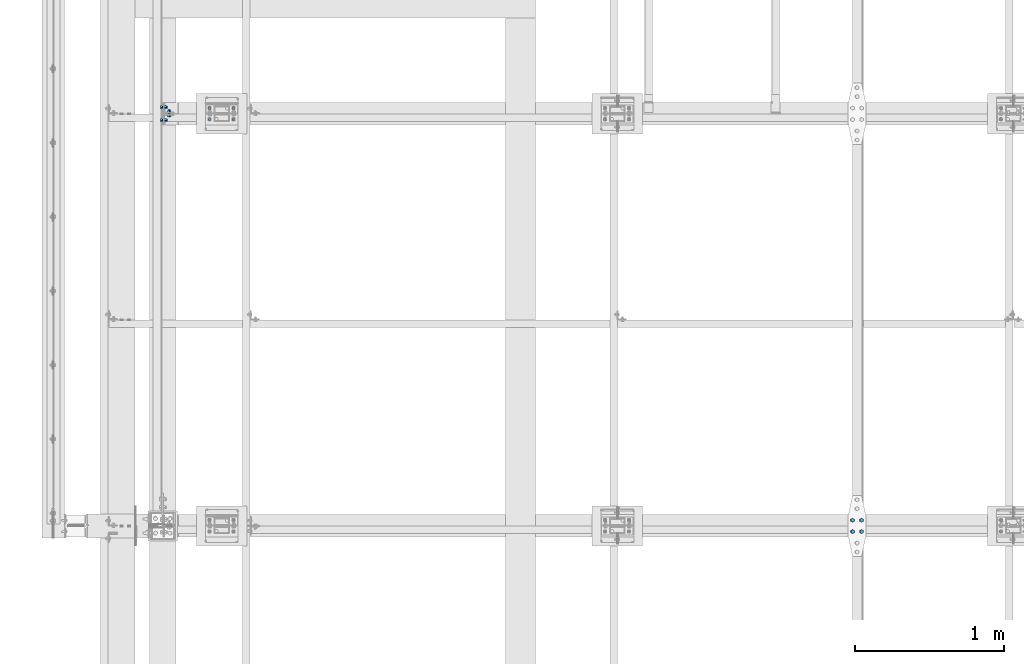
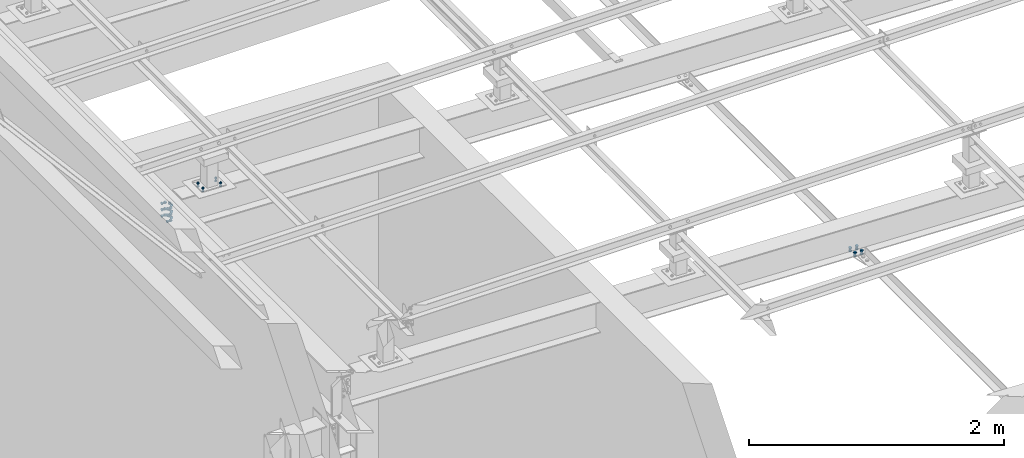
# One storey, part 185 of 3134: 5 mechanical fasteners, 4 elements without a shape of their own.
"""IFC2X3 building model written with IfcOpenShell, lengths in millimetres."""

from ifc_helpers import new_model, si_unit, frame, origin_with_axes, place, context, subcontext, project, spatial, faceted_brep, source, transform, mapped, material, type_object, element, aggregate, save


model = new_model("IFC2X3")

# Units and contexts
model_context = context("Model", 3, precision=1e-05, world=origin_with_axes())
body_context = subcontext(model_context, "Body", "Model", "MODEL_VIEW")
ifc_project = project(units=[si_unit("LENGTHUNIT", "METRE", prefix="MILLI"), si_unit("AREAUNIT", "SQUARE_METRE"), si_unit("VOLUMEUNIT", "CUBIC_METRE"), si_unit("MASSUNIT", "GRAM", prefix="KILO"), si_unit("TIMEUNIT", "SECOND"), si_unit("PLANEANGLEUNIT", "RADIAN"), si_unit("SOLIDANGLEUNIT", "STERADIAN"), si_unit("THERMODYNAMICTEMPERATUREUNIT", "DEGREE_CELSIUS"), si_unit("LUMINOUSINTENSITYUNIT", "LUMEN")], contexts=[model_context])

# Site, building, storey
site_placement = place(None, origin_with_axes())
site = spatial("IfcSite", under=ifc_project, at=site_placement, CompositionType="ELEMENT")
building_placement = place(site_placement, origin_with_axes())
building = spatial("IfcBuilding", under=site, at=building_placement, Name="Undefined", CompositionType="ELEMENT")
storey_placement = place(building_placement, origin_with_axes())
storey = spatial("IfcBuildingStorey", under=building, at=storey_placement, Name="Undefined", CompositionType="ELEMENT", Elevation=0.0)

# Assembly, mechanical fastener
assembly_1_placement = place(storey_placement, origin_with_axes())
assembly_1 = element("IfcElementAssembly", 1, at=assembly_1_placement, inside=storey, AssemblyPlace="NOTDEFINED", PredefinedType="RIGID_FRAME")
ifc_material = material(Name="8.8")
mechanical_fastener_type = type_object("IfcMechanicalFastenerType", Name="Bolt assembly")
shared_shape_1 = source(origin_with_axes(), body_context, "Body", "Brep", [
    faceted_brep([(13.856406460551, -18.5936482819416, 0.0), (6.92820323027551, -18.5936482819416, 12.0), (-6.92820323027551, -18.5936482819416, 12.0), (-13.856406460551, -18.5936482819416, 1.69692038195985e-15), (-6.92820323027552, -18.5936482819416, -12.0), (6.9282032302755, -18.5936482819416, -12.0), (6.9282032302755, -8.59364828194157, -12.0), (-6.92820323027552, -8.59364828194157, -12.0), (-13.856406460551, -8.59364828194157, 1.69692038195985e-15), (-6.92820323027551, -8.59364828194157, 12.0), (6.92820323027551, -8.59364828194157, 12.0), (13.856406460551, -8.59364828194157, 0.0), (8.0, -8.59364828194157, 0.0), (6.92820323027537, -8.59364828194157, 4.00000000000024), (3.99999999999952, -8.59364828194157, 6.92820323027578), (-8.29068785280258e-13, -8.59364828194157, 8.0), (-4.00000000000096, -8.59364828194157, 6.92820323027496), (-6.9282032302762, -8.59364828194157, 3.99999999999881), (-8.0, -8.59364828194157, -1.65813757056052e-12), (-6.92820323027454, -8.59364828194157, -4.00000000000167), (-3.99999999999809, -8.59364828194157, -6.92820323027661), (2.47832457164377e-12, -8.59364828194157, -8.0), (4.00000000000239, -8.59364828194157, -6.92820323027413), (6.92820323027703, -8.59364828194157, -3.99999999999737), (6.92820323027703, 26.4063517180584, -3.99999999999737), (4.00000000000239, 26.4063517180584, -6.92820323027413), (2.47832457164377e-12, 26.4063517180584, -8.0), (-3.99999999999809, 26.4063517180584, -6.92820323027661), (-6.92820323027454, 26.4063517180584, -4.00000000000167), (-8.0, 26.4063517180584, -1.65813757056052e-12), (-6.9282032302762, 26.4063517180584, 3.99999999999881), (-4.00000000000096, 26.4063517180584, 6.92820323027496), (-8.29068785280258e-13, 26.4063517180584, 8.0), (3.99999999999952, 26.4063517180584, 6.92820323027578), (6.92820323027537, 26.4063517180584, 4.00000000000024), (8.0, 26.4063517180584, 0.0), (13.856406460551, 7.0, 0.0), (6.92820323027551, 7.0, 12.0), (-6.92820323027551, 7.0, 12.0), (-13.856406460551, 7.0, 1.69692038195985e-15), (-6.92820323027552, 7.0, -12.0), (6.9282032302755, 7.0, -12.0), (6.9282032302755, 20.0, -12.0), (-6.92820323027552, 20.0, -12.0), (-13.856406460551, 20.0, 1.69692038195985e-15), (-6.92820323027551, 20.0, 12.0), (6.92820323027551, 20.0, 12.0), (13.856406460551, 20.0, 0.0)], [[[0, 1, 2, 3, 4, 5]], [[6, 7, 8, 9, 10, 11]], [[0, 11, 10, 1]], [[1, 10, 9, 2]], [[2, 9, 8, 3]], [[3, 8, 7, 4]], [[4, 7, 6, 5]], [[5, 6, 11, 0]], [[12, 13, 14, 15, 16, 17, 18, 19, 20, 21, 22, 23]], [[24, 25, 26, 27, 28, 29, 30, 31, 32, 33, 34, 35]], [[12, 35, 34, 13]], [[13, 34, 33, 14]], [[14, 33, 32, 15]], [[15, 32, 31, 16]], [[16, 31, 30, 17]], [[17, 30, 29, 18]], [[18, 29, 28, 19]], [[19, 28, 27, 20]], [[20, 27, 26, 21]], [[21, 26, 25, 22]], [[22, 25, 24, 23]], [[23, 24, 35, 12]], [[36, 37, 38, 39, 40, 41]], [[42, 43, 44, 45, 46, 47]], [[36, 47, 46, 37]], [[37, 46, 45, 38]], [[38, 45, 44, 39]], [[39, 44, 43, 40]], [[40, 43, 42, 41]], [[41, 42, 47, 36]]]),
    faceted_brep([(9.0, -8.49364828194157, 0.0), (7.79422863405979, -8.49364828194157, 4.50000000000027), (4.49999999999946, -8.49364828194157, 7.79422863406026), (-9.3270238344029e-13, -8.49364828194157, 9.0), (-4.50000000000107, -8.49364828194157, 7.79422863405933), (-7.79422863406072, -8.49364828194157, 4.49999999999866), (-9.0, -8.49364828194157, -1.86540476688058e-12), (-7.79422863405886, -8.49364828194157, -4.50000000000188), (-4.49999999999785, -8.49364828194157, -7.79422863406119), (2.78811514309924e-12, -8.49364828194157, -9.0), (4.50000000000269, -8.49364828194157, -7.7942286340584), (7.79422863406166, -8.49364828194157, -4.49999999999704), (7.79422863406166, 0.10635209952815, -4.49999999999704), (4.50000000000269, 0.10635209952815, -7.7942286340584), (2.78811514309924e-12, 0.10635209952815, -9.0), (-4.49999999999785, 0.10635209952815, -7.79422863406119), (-7.79422863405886, 0.10635209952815, -4.50000000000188), (-9.0, 0.10635209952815, -1.86540476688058e-12), (-7.79422863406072, 0.10635209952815, 4.49999999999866), (-4.50000000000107, 0.10635209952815, 7.79422863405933), (-9.3270238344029e-13, 0.10635209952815, 9.0), (4.49999999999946, 0.10635209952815, 7.79422863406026), (7.79422863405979, 0.10635209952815, 4.50000000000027), (9.0, 0.10635209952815, 0.0), (9.0, -0.1, 0.0), (7.79422863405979, -0.1, 4.50000000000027), (4.49999999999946, -0.1, 7.79422863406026), (-9.3270238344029e-13, -0.1, 9.0), (-4.50000000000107, -0.1, 7.79422863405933), (-7.79422863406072, -0.1, 4.49999999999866), (-9.0, -0.1, -1.86540476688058e-12), (-7.79422863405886, -0.1, -4.50000000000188), (-4.49999999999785, -0.1, -7.79422863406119), (2.78811514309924e-12, -0.1, -9.0), (4.50000000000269, -0.1, -7.7942286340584), (7.79422863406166, -0.1, -4.49999999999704), (7.79422863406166, 7.0, -4.49999999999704), (4.50000000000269, 7.0, -7.7942286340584), (2.78811514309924e-12, 7.0, -9.0), (-4.49999999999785, 7.0, -7.79422863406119), (-7.79422863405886, 7.0, -4.50000000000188), (-9.0, 7.0, -1.86540476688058e-12), (-7.79422863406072, 7.0, 4.49999999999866), (-4.50000000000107, 7.0, 7.79422863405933), (-9.3270238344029e-13, 7.0, 9.0), (4.49999999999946, 7.0, 7.79422863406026), (7.79422863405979, 7.0, 4.50000000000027), (9.0, 7.0, 0.0)], [[[0, 1, 2, 3, 4, 5, 6, 7, 8, 9, 10, 11]], [[12, 13, 14, 15, 16, 17, 18, 19, 20, 21, 22, 23]], [[0, 23, 22, 1]], [[1, 22, 21, 2]], [[2, 21, 20, 3]], [[3, 20, 19, 4]], [[4, 19, 18, 5]], [[5, 18, 17, 6]], [[6, 17, 16, 7]], [[7, 16, 15, 8]], [[8, 15, 14, 9]], [[9, 14, 13, 10]], [[10, 13, 12, 11]], [[11, 12, 23, 0]], [[24, 25, 26, 27, 28, 29, 30, 31, 32, 33, 34, 35]], [[36, 37, 38, 39, 40, 41, 42, 43, 44, 45, 46, 47]], [[24, 47, 46, 25]], [[25, 46, 45, 26]], [[26, 45, 44, 27]], [[27, 44, 43, 28]], [[28, 43, 42, 29]], [[29, 42, 41, 30]], [[30, 41, 40, 31]], [[31, 40, 39, 32]], [[32, 39, 38, 33]], [[33, 38, 37, 34]], [[34, 37, 36, 35]], [[35, 36, 47, 24]]]),
])
mechanical_fastener_1_placement = place(assembly_1_placement, frame((4.29364809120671, 43051.37, 3841.86727512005), z_axis=(0.0, 1.0, 0.0), x_axis=(0.0, 0.0, 1.0)))
mechanical_fastener_1 = element("IfcMechanicalFastener", 2, at=mechanical_fastener_1_placement, type_object=mechanical_fastener_type, material=ifc_material, Name="Bolt assembly", NominalDiameter=16.0, NominalLength=35.0, context=body_context, shape_type="MappedRepresentation", body=[
    mapped(shared_shape_1, transform((0.0, 0.0, 0.0))),
    mapped(shared_shape_1, transform((59.9999999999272, 0.0, 5.40239852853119e-10))),
    mapped(shared_shape_1, transform((120.0, 0.0, 0.0))),
])
aggregate(assembly_1, [mechanical_fastener_1])

assembly_2_placement = place(storey_placement, origin_with_axes())
assembly_2 = element("IfcElementAssembly", 3, at=assembly_2_placement, inside=storey, AssemblyPlace="NOTDEFINED", PredefinedType="RIGID_FRAME")
mechanical_fastener_2_placement = place(assembly_2_placement, frame((4.29364809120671, 42965.29, 3841.86727512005), z_axis=(0.0, 1.0, 0.0), x_axis=(0.0, 0.0, 1.0)))
mechanical_fastener_2 = element("IfcMechanicalFastener", 4, at=mechanical_fastener_2_placement, type_object=mechanical_fastener_type, material=ifc_material, Name="Bolt assembly", NominalDiameter=16.0, NominalLength=35.0, context=body_context, shape_type="MappedRepresentation", body=[
    mapped(shared_shape_1, transform((0.0, 0.0, 0.0))),
    mapped(shared_shape_1, transform((59.9999999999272, 0.0, 5.40239852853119e-10))),
    mapped(shared_shape_1, transform((120.0, 0.0, 0.0))),
])

assembly_3_placement = place(storey_placement, origin_with_axes())
assembly_3 = element("IfcElementAssembly", 5, at=assembly_3_placement, inside=storey, Name="PL8", AssemblyPlace="NOTDEFINED", PredefinedType="RIGID_FRAME")
shared_shape_2 = source(origin_with_axes(), body_context, "Body", "Brep", [
    faceted_brep([(13.856406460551, -23.2000817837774, 0.0), (6.92820323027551, -23.2000817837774, 12.0), (-6.92820323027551, -23.2000817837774, 12.0), (-13.856406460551, -23.2000817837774, 1.69692038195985e-15), (-6.92820323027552, -23.2000817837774, -12.0), (6.9282032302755, -23.2000817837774, -12.0), (6.9282032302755, -13.2000817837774, -12.0), (-6.92820323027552, -13.2000817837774, -12.0), (-13.856406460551, -13.2000817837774, 1.69692038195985e-15), (-6.92820323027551, -13.2000817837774, 12.0), (6.92820323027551, -13.2000817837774, 12.0), (13.856406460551, -13.2000817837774, 0.0), (8.0, -13.2000817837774, 0.0), (6.92820323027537, -13.2000817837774, 4.00000000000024), (3.99999999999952, -13.2000817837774, 6.92820323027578), (-8.29068785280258e-13, -13.2000817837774, 8.0), (-4.00000000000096, -13.2000817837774, 6.92820323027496), (-6.9282032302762, -13.2000817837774, 3.99999999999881), (-8.0, -13.2000817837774, -1.65813757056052e-12), (-6.92820323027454, -13.2000817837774, -4.00000000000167), (-3.99999999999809, -13.2000817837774, -6.92820323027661), (2.47832457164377e-12, -13.2000817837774, -8.0), (4.00000000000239, -13.2000817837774, -6.92820323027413), (6.92820323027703, -13.2000817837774, -3.99999999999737), (6.92820323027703, 21.7999182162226, -3.99999999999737), (4.00000000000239, 21.7999182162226, -6.92820323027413), (2.47832457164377e-12, 21.7999182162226, -8.0), (-3.99999999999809, 21.7999182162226, -6.92820323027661), (-6.92820323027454, 21.7999182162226, -4.00000000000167), (-8.0, 21.7999182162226, -1.65813757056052e-12), (-6.9282032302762, 21.7999182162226, 3.99999999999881), (-4.00000000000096, 21.7999182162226, 6.92820323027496), (-8.29068785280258e-13, 21.7999182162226, 8.0), (3.99999999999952, 21.7999182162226, 6.92820323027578), (6.92820323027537, 21.7999182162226, 4.00000000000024), (8.0, 21.7999182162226, 0.0), (13.856406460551, 3.99999999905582, 0.0), (6.92820323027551, 3.99999999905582, 12.0), (-6.92820323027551, 3.99999999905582, 12.0), (-13.856406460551, 3.99999999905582, 1.69692038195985e-15), (-6.92820323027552, 3.99999999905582, -12.0), (6.9282032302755, 3.99999999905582, -12.0), (6.9282032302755, 16.9999999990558, -12.0), (-6.92820323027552, 16.9999999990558, -12.0), (-13.856406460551, 16.9999999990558, 1.69692038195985e-15), (-6.92820323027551, 16.9999999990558, 12.0), (6.92820323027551, 16.9999999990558, 12.0), (13.856406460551, 16.9999999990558, 0.0)], [[[0, 1, 2, 3, 4, 5]], [[6, 7, 8, 9, 10, 11]], [[0, 11, 10, 1]], [[1, 10, 9, 2]], [[2, 9, 8, 3]], [[3, 8, 7, 4]], [[4, 7, 6, 5]], [[5, 6, 11, 0]], [[12, 13, 14, 15, 16, 17, 18, 19, 20, 21, 22, 23]], [[24, 25, 26, 27, 28, 29, 30, 31, 32, 33, 34, 35]], [[12, 35, 34, 13]], [[13, 34, 33, 14]], [[14, 33, 32, 15]], [[15, 32, 31, 16]], [[16, 31, 30, 17]], [[17, 30, 29, 18]], [[18, 29, 28, 19]], [[19, 28, 27, 20]], [[20, 27, 26, 21]], [[21, 26, 25, 22]], [[22, 25, 24, 23]], [[23, 24, 35, 12]], [[36, 37, 38, 39, 40, 41]], [[42, 43, 44, 45, 46, 47]], [[36, 47, 46, 37]], [[37, 46, 45, 38]], [[38, 45, 44, 39]], [[39, 44, 43, 40]], [[40, 43, 42, 41]], [[41, 42, 47, 36]]]),
    faceted_brep([(9.0, -13.1000817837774, 0.0), (7.79422863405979, -13.1000817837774, 4.50000000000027), (4.49999999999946, -13.1000817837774, 7.79422863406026), (-9.3270238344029e-13, -13.1000817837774, 9.0), (-4.50000000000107, -13.1000817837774, 7.79422863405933), (-7.79422863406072, -13.1000817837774, 4.49999999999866), (-9.0, -13.1000817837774, -1.86540476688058e-12), (-7.79422863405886, -13.1000817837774, -4.50000000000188), (-4.49999999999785, -13.1000817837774, -7.79422863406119), (2.78811514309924e-12, -13.1000817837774, -9.0), (4.50000000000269, -13.1000817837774, -7.7942286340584), (7.79422863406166, -13.1000817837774, -4.49999999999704), (7.79422863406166, -3.90008197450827, -4.49999999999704), (4.50000000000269, -3.90008197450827, -7.7942286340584), (2.78811514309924e-12, -3.90008197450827, -9.0), (-4.49999999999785, -3.90008197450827, -7.79422863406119), (-7.79422863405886, -3.90008197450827, -4.50000000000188), (-9.0, -3.90008197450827, -1.86540476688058e-12), (-7.79422863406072, -3.90008197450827, 4.49999999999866), (-4.50000000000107, -3.90008197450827, 7.79422863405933), (-9.3270238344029e-13, -3.90008197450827, 9.0), (4.49999999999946, -3.90008197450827, 7.79422863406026), (7.79422863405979, -3.90008197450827, 4.50000000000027), (9.0, -3.90008197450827, 0.0), (9.0, -4.10000000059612, 0.0), (7.79422863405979, -4.10000000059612, 4.50000000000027), (4.49999999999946, -4.10000000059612, 7.79422863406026), (-9.3270238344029e-13, -4.10000000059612, 9.0), (-4.50000000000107, -4.10000000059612, 7.79422863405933), (-7.79422863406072, -4.10000000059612, 4.49999999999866), (-9.0, -4.10000000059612, -1.86540476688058e-12), (-7.79422863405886, -4.10000000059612, -4.50000000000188), (-4.49999999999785, -4.10000000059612, -7.79422863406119), (2.78811514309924e-12, -4.10000000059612, -9.0), (4.50000000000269, -4.10000000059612, -7.7942286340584), (7.79422863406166, -4.10000000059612, -4.49999999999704), (7.79422863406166, 4.00000375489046, -4.49999999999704), (4.50000000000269, 4.00000375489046, -7.7942286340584), (2.78811514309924e-12, 4.00000375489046, -9.0), (-4.49999999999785, 4.00000375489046, -7.79422863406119), (-7.79422863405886, 4.00000375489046, -4.50000000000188), (-9.0, 4.00000375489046, -1.86540476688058e-12), (-7.79422863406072, 4.00000375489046, 4.49999999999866), (-4.50000000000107, 4.00000375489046, 7.79422863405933), (-9.3270238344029e-13, 4.00000375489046, 9.0), (4.49999999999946, 4.00000375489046, 7.79422863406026), (7.79422863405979, 4.00000375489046, 4.50000000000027), (9.0, 4.00000375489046, 0.0)], [[[0, 1, 2, 3, 4, 5, 6, 7, 8, 9, 10, 11]], [[12, 13, 14, 15, 16, 17, 18, 19, 20, 21, 22, 23]], [[0, 23, 22, 1]], [[1, 22, 21, 2]], [[2, 21, 20, 3]], [[3, 20, 19, 4]], [[4, 19, 18, 5]], [[5, 18, 17, 6]], [[6, 17, 16, 7]], [[7, 16, 15, 8]], [[8, 15, 14, 9]], [[9, 14, 13, 10]], [[10, 13, 12, 11]], [[11, 12, 23, 0]], [[24, 25, 26, 27, 28, 29, 30, 31, 32, 33, 34, 35]], [[36, 37, 38, 39, 40, 41, 42, 43, 44, 45, 46, 47]], [[24, 47, 46, 25]], [[25, 46, 45, 26]], [[26, 45, 44, 27]], [[27, 44, 43, 28]], [[28, 43, 42, 29]], [[29, 42, 41, 30]], [[30, 41, 40, 31]], [[31, 40, 39, 32]], [[32, 39, 38, 33]], [[33, 38, 37, 34]], [[34, 37, 36, 35]], [[35, 36, 47, 24]]]),
])
mechanical_fastener_3_placement = place(assembly_3_placement, frame((4647.50483519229, 40212.0, 3576.15051900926), z_axis=(-0.999388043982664, 0.0, 0.0349791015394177), x_axis=(0.0, 1.0, 0.0)))
mechanical_fastener_3 = element("IfcMechanicalFastener", 6, at=mechanical_fastener_3_placement, type_object=mechanical_fastener_type, material=ifc_material, Name="Bolt assembly", NominalDiameter=16.0, NominalLength=35.0, context=body_context, shape_type="MappedRepresentation", body=[
    mapped(shared_shape_2, transform((0.0, 4.54747350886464e-13, -30.0000000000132))),
    mapped(shared_shape_2, transform((76.0, -2.00088834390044e-10, -29.9999999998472))),
    mapped(shared_shape_2, transform((0.0, 4.54747350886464e-13, 30.0000000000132))),
    mapped(shared_shape_2, transform((76.0, 1.98269844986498e-10, 29.9999999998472))),
])
aggregate(assembly_3, [mechanical_fastener_3])

# Mechanical fastener
shared_shape_3 = source(origin_with_axes(), body_context, "Body", "Brep", [
    faceted_brep([(13.856406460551, -20.0400000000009, 0.0), (6.92820323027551, -20.0400000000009, 12.0), (-6.92820323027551, -20.0400000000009, 12.0), (-13.856406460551, -20.0400000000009, 1.69692038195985e-15), (-6.92820323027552, -20.0400000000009, -12.0), (6.9282032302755, -20.0400000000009, -12.0), (6.9282032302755, -10.0400000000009, -12.0), (-6.92820323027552, -10.0400000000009, -12.0), (-13.856406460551, -10.0400000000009, 1.69692038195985e-15), (-6.92820323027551, -10.0400000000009, 12.0), (6.92820323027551, -10.0400000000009, 12.0), (13.856406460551, -10.0400000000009, 0.0), (8.0, -10.0400000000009, 0.0), (6.92820323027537, -10.0400000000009, 4.00000000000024), (3.99999999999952, -10.0400000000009, 6.92820323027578), (-8.29068785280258e-13, -10.0400000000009, 8.0), (-4.00000000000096, -10.0400000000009, 6.92820323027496), (-6.9282032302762, -10.0400000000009, 3.99999999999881), (-8.0, -10.0400000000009, -1.65813757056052e-12), (-6.92820323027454, -10.0400000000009, -4.00000000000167), (-3.99999999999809, -10.0400000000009, -6.92820323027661), (2.47832457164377e-12, -10.0400000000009, -8.0), (4.00000000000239, -10.0400000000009, -6.92820323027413), (6.92820323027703, -10.0400000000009, -3.99999999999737), (6.92820323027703, 29.9599999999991, -3.99999999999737), (4.00000000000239, 29.9599999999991, -6.92820323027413), (2.47832457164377e-12, 29.9599999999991, -8.0), (-3.99999999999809, 29.9599999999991, -6.92820323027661), (-6.92820323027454, 29.9599999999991, -4.00000000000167), (-8.0, 29.9599999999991, -1.65813757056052e-12), (-6.9282032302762, 29.9599999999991, 3.99999999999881), (-4.00000000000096, 29.9599999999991, 6.92820323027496), (-8.29068785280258e-13, 29.9599999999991, 8.0), (3.99999999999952, 29.9599999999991, 6.92820323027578), (6.92820323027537, 29.9599999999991, 4.00000000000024), (8.0, 29.9599999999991, 0.0), (13.856406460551, 10.0400000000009, 0.0), (6.92820323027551, 10.0400000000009, 12.0), (-6.92820323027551, 10.0400000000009, 12.0), (-13.856406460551, 10.0400000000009, 1.69692038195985e-15), (-6.92820323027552, 10.0400000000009, -12.0), (6.9282032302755, 10.0400000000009, -12.0), (6.9282032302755, 23.0400000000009, -12.0), (-6.92820323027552, 23.0400000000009, -12.0), (-13.856406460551, 23.0400000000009, 1.69692038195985e-15), (-6.92820323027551, 23.0400000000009, 12.0), (6.92820323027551, 23.0400000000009, 12.0), (13.856406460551, 23.0400000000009, 0.0)], [[[0, 1, 2, 3, 4, 5]], [[6, 7, 8, 9, 10, 11]], [[0, 11, 10, 1]], [[1, 10, 9, 2]], [[2, 9, 8, 3]], [[3, 8, 7, 4]], [[4, 7, 6, 5]], [[5, 6, 11, 0]], [[12, 13, 14, 15, 16, 17, 18, 19, 20, 21, 22, 23]], [[24, 25, 26, 27, 28, 29, 30, 31, 32, 33, 34, 35]], [[12, 35, 34, 13]], [[13, 34, 33, 14]], [[14, 33, 32, 15]], [[15, 32, 31, 16]], [[16, 31, 30, 17]], [[17, 30, 29, 18]], [[18, 29, 28, 19]], [[19, 28, 27, 20]], [[20, 27, 26, 21]], [[21, 26, 25, 22]], [[22, 25, 24, 23]], [[23, 24, 35, 12]], [[36, 37, 38, 39, 40, 41]], [[42, 43, 44, 45, 46, 47]], [[36, 47, 46, 37]], [[37, 46, 45, 38]], [[38, 45, 44, 39]], [[39, 44, 43, 40]], [[40, 43, 42, 41]], [[41, 42, 47, 36]]]),
    faceted_brep([(9.0, -3.04999995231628, 0.0), (7.79422863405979, -3.04999995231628, 4.50000000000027), (4.49999999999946, -3.04999995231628, 7.79422863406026), (-9.3270238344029e-13, -3.04999995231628, 9.0), (-4.50000000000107, -3.04999995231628, 7.79422863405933), (-7.79422863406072, -3.04999995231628, 4.49999999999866), (-9.0, -3.04999995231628, -1.86540476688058e-12), (-7.79422863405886, -3.04999995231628, -4.50000000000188), (-4.49999999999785, -3.04999995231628, -7.79422863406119), (2.78811514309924e-12, -3.04999995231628, -9.0), (4.50000000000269, -3.04999995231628, -7.7942286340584), (7.79422863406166, -3.04999995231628, -4.49999999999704), (7.79422863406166, 3.04999995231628, -4.49999999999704), (4.50000000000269, 3.04999995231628, -7.7942286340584), (2.78811514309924e-12, 3.04999995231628, -9.0), (-4.49999999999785, 3.04999995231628, -7.79422863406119), (-7.79422863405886, 3.04999995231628, -4.50000000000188), (-9.0, 3.04999995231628, -1.86540476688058e-12), (-7.79422863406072, 3.04999995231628, 4.49999999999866), (-4.50000000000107, 3.04999995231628, 7.79422863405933), (-9.3270238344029e-13, 3.04999995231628, 9.0), (4.49999999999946, 3.04999995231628, 7.79422863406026), (7.79422863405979, 3.04999995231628, 4.50000000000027), (9.0, 3.04999995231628, 0.0), (9.0, -9.94000000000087, 0.0), (7.79422863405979, -9.94000000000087, 4.50000000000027), (4.49999999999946, -9.94000000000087, 7.79422863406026), (-9.3270238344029e-13, -9.94000000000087, 9.0), (-4.50000000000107, -9.94000000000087, 7.79422863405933), (-7.79422863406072, -9.94000000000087, 4.49999999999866), (-9.0, -9.94000000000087, -1.86540476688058e-12), (-7.79422863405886, -9.94000000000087, -4.50000000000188), (-4.49999999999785, -9.94000000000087, -7.79422863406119), (2.78811514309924e-12, -9.94000000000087, -9.0), (4.50000000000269, -9.94000000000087, -7.7942286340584), (7.79422863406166, -9.94000000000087, -4.49999999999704), (7.79422863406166, -2.94000000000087, -4.49999999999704), (4.50000000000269, -2.94000000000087, -7.7942286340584), (2.78811514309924e-12, -2.94000000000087, -9.0), (-4.49999999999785, -2.94000000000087, -7.79422863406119), (-7.79422863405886, -2.94000000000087, -4.50000000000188), (-9.0, -2.94000000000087, -1.86540476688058e-12), (-7.79422863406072, -2.94000000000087, 4.49999999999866), (-4.50000000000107, -2.94000000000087, 7.79422863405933), (-9.3270238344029e-13, -2.94000000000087, 9.0), (4.49999999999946, -2.94000000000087, 7.79422863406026), (7.79422863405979, -2.94000000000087, 4.50000000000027), (9.0, -2.94000000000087, 0.0), (9.0, 2.94000000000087, 0.0), (7.79422863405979, 2.94000000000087, 4.50000000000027), (4.49999999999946, 2.94000000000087, 7.79422863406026), (-9.3270238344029e-13, 2.94000000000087, 9.0), (-4.50000000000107, 2.94000000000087, 7.79422863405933), (-7.79422863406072, 2.94000000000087, 4.49999999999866), (-9.0, 2.94000000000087, -1.86540476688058e-12), (-7.79422863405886, 2.94000000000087, -4.50000000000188), (-4.49999999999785, 2.94000000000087, -7.79422863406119), (2.78811514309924e-12, 2.94000000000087, -9.0), (4.50000000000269, 2.94000000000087, -7.7942286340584), (7.79422863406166, 2.94000000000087, -4.49999999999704), (7.79422863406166, 10.0400000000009, -4.49999999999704), (4.50000000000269, 10.0400000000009, -7.7942286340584), (2.78811514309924e-12, 10.0400000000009, -9.0), (-4.49999999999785, 10.0400000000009, -7.79422863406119), (-7.79422863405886, 10.0400000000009, -4.50000000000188), (-9.0, 10.0400000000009, -1.86540476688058e-12), (-7.79422863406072, 10.0400000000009, 4.49999999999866), (-4.50000000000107, 10.0400000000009, 7.79422863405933), (-9.3270238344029e-13, 10.0400000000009, 9.0), (4.49999999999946, 10.0400000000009, 7.79422863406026), (7.79422863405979, 10.0400000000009, 4.50000000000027), (9.0, 10.0400000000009, 0.0)], [[[0, 1, 2, 3, 4, 5, 6, 7, 8, 9, 10, 11]], [[12, 13, 14, 15, 16, 17, 18, 19, 20, 21, 22, 23]], [[0, 23, 22, 1]], [[1, 22, 21, 2]], [[2, 21, 20, 3]], [[3, 20, 19, 4]], [[4, 19, 18, 5]], [[5, 18, 17, 6]], [[6, 17, 16, 7]], [[7, 16, 15, 8]], [[8, 15, 14, 9]], [[9, 14, 13, 10]], [[10, 13, 12, 11]], [[11, 12, 23, 0]], [[24, 25, 26, 27, 28, 29, 30, 31, 32, 33, 34, 35]], [[36, 37, 38, 39, 40, 41, 42, 43, 44, 45, 46, 47]], [[24, 47, 46, 25]], [[25, 46, 45, 26]], [[26, 45, 44, 27]], [[27, 44, 43, 28]], [[28, 43, 42, 29]], [[29, 42, 41, 30]], [[30, 41, 40, 31]], [[31, 40, 39, 32]], [[32, 39, 38, 33]], [[33, 38, 37, 34]], [[34, 37, 36, 35]], [[35, 36, 47, 24]], [[48, 49, 50, 51, 52, 53, 54, 55, 56, 57, 58, 59]], [[60, 61, 62, 63, 64, 65, 66, 67, 68, 69, 70, 71]], [[48, 71, 70, 49]], [[49, 70, 69, 50]], [[50, 69, 68, 51]], [[51, 68, 67, 52]], [[52, 67, 66, 53]], [[53, 66, 65, 54]], [[54, 65, 64, 55]], [[55, 64, 63, 56]], [[56, 63, 62, 57]], [[57, 62, 61, 58]], [[58, 61, 60, 59]], [[59, 60, 71, 48]]]),
])
mechanical_fastener_4_placement = place(assembly_2_placement, frame((44.2936480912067, 43008.33, 3841.86727512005), z_axis=(-1.0, 0.0, 0.0), x_axis=(0.0, 0.0, 1.0)))
mechanical_fastener_4 = element("IfcMechanicalFastener", 7, at=mechanical_fastener_4_placement, type_object=mechanical_fastener_type, material=ifc_material, Name="Bolt assembly", NominalDiameter=16.0, NominalLength=40.0, context=body_context, shape_type="MappedRepresentation", body=[
    mapped(shared_shape_3, transform((0.0, 0.0, 0.0))),
    mapped(shared_shape_3, transform((59.9999999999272, 0.0, 5.40239852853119e-10))),
    mapped(shared_shape_3, transform((120.0, 0.0, 0.0))),
])

aggregate(assembly_2, [mechanical_fastener_2, mechanical_fastener_4])

# Assembly, mechanical fastener
assembly_4_placement = place(storey_placement, origin_with_axes())
assembly_4 = element("IfcElementAssembly", 8, at=assembly_4_placement, inside=storey, AssemblyPlace="NOTDEFINED", PredefinedType="RIGID_FRAME")
shared_shape_4 = source(origin_with_axes(), body_context, "Body", "Brep", [
    faceted_brep([(10.9696551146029, -4.19432770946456, 0.0), (5.48482755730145, -4.19432770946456, 9.5), (-5.48482755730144, -4.19432770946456, 9.5), (-10.9696551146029, -4.19432770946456, 1.34339530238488e-15), (-5.48482755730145, -4.19432770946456, -9.5), (5.48482755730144, -4.19432770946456, -9.50000000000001), (5.48482755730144, 3.80567229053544, -9.50000000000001), (-5.48482755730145, 3.80567229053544, -9.5), (-10.9696551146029, 3.80567229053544, 1.34339530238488e-15), (-5.48482755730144, 3.80567229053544, 9.5), (5.48482755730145, 3.80567229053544, 9.5), (10.9696551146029, 3.80567229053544, 0.0), (6.0, 3.80567229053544, 0.0), (5.19615242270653, 3.80567229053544, 3.00000000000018), (2.99999999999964, 3.80567229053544, 5.19615242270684), (-6.21801588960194e-13, 3.80567229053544, 6.0), (-3.00000000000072, 3.80567229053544, 5.19615242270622), (-5.19615242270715, 3.80567229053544, 2.9999999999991), (-6.0, 3.80567229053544, -1.24360317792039e-12), (-5.19615242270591, 3.80567229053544, -3.00000000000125), (-2.99999999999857, 3.80567229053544, -5.19615242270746), (1.85874342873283e-12, 3.80567229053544, -6.0), (3.00000000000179, 3.80567229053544, -5.1961524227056), (5.19615242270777, 3.80567229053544, -2.99999999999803), (5.19615242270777, 38.8056722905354, -2.99999999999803), (3.00000000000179, 38.8056722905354, -5.1961524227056), (1.85874342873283e-12, 38.8056722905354, -6.0), (-2.99999999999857, 38.8056722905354, -5.19615242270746), (-5.19615242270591, 38.8056722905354, -3.00000000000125), (-6.0, 38.8056722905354, -1.24360317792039e-12), (-5.19615242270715, 38.8056722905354, 2.9999999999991), (-3.00000000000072, 38.8056722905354, 5.19615242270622), (-6.21801588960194e-13, 38.8056722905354, 6.0), (2.99999999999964, 38.8056722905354, 5.19615242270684), (5.19615242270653, 38.8056722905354, 3.00000000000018), (6.0, 38.8056722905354, 0.0), (10.9696551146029, 23.0139082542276, 0.0), (5.48482755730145, 23.0139082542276, 9.5), (-5.48482755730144, 23.0139082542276, 9.5), (-10.9696551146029, 23.0139082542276, 1.34339530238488e-15), (-5.48482755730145, 23.0139082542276, -9.5), (5.48482755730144, 23.0139082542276, -9.50000000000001), (5.48482755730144, 33.0139082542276, -9.50000000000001), (-5.48482755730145, 33.0139082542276, -9.5), (-10.9696551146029, 33.0139082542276, 1.34339530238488e-15), (-5.48482755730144, 33.0139082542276, 9.5), (5.48482755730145, 33.0139082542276, 9.5), (10.9696551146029, 33.0139082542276, 0.0)], [[[0, 1, 2, 3, 4, 5]], [[6, 7, 8, 9, 10, 11]], [[0, 11, 10, 1]], [[1, 10, 9, 2]], [[2, 9, 8, 3]], [[3, 8, 7, 4]], [[4, 7, 6, 5]], [[5, 6, 11, 0]], [[12, 13, 14, 15, 16, 17, 18, 19, 20, 21, 22, 23]], [[24, 25, 26, 27, 28, 29, 30, 31, 32, 33, 34, 35]], [[12, 35, 34, 13]], [[13, 34, 33, 14]], [[14, 33, 32, 15]], [[15, 32, 31, 16]], [[16, 31, 30, 17]], [[17, 30, 29, 18]], [[18, 29, 28, 19]], [[19, 28, 27, 20]], [[20, 27, 26, 21]], [[21, 26, 25, 22]], [[22, 25, 24, 23]], [[23, 24, 35, 12]], [[36, 37, 38, 39, 40, 41]], [[42, 43, 44, 45, 46, 47]], [[36, 47, 46, 37]], [[37, 46, 45, 38]], [[38, 45, 44, 39]], [[39, 44, 43, 40]], [[40, 43, 42, 41]], [[41, 42, 47, 36]]]),
    faceted_brep([(7.0, 3.90567229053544, 0.0), (6.06217782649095, 3.90567229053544, 3.50000000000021), (3.49999999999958, 3.90567229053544, 6.06217782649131), (-7.25435187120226e-13, 3.90567229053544, 7.0), (-3.50000000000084, 3.90567229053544, 6.06217782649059), (-6.06217782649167, 3.90567229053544, 3.49999999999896), (-7.0, 3.90567229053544, -1.45087037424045e-12), (-6.06217782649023, 3.90567229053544, -3.50000000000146), (-3.49999999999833, 3.90567229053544, -6.06217782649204), (2.1685340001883e-12, 3.90567229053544, -7.0), (3.50000000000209, 3.90567229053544, -6.06217782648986), (6.0621778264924, 3.90567229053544, -3.4999999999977), (6.0621778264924, 13.1056721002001, -3.4999999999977), (3.50000000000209, 13.1056721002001, -6.06217782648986), (2.1685340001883e-12, 13.1056721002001, -7.0), (-3.49999999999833, 13.1056721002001, -6.06217782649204), (-6.06217782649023, 13.1056721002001, -3.50000000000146), (-7.0, 13.1056721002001, -1.45087037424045e-12), (-6.06217782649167, 13.1056721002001, 3.49999999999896), (-3.50000000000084, 13.1056721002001, 6.06217782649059), (-7.25435187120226e-13, 13.1056721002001, 7.0), (3.49999999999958, 13.1056721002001, 6.06217782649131), (6.06217782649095, 13.1056721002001, 3.50000000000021), (7.0, 13.1056721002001, 0.0), (7.0, 14.9139082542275, 0.0), (6.06217782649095, 14.9139082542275, 3.50000000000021), (3.49999999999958, 14.9139082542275, 6.06217782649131), (-7.25435187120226e-13, 14.9139082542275, 7.0), (-3.50000000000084, 14.9139082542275, 6.06217782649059), (-6.06217782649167, 14.9139082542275, 3.49999999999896), (-7.0, 14.9139082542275, -1.45087037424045e-12), (-6.06217782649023, 14.9139082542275, -3.50000000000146), (-3.49999999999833, 14.9139082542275, -6.06217782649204), (2.1685340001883e-12, 14.9139082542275, -7.0), (3.50000000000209, 14.9139082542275, -6.06217782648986), (6.0621778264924, 14.9139082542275, -3.4999999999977), (6.0621778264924, 23.0139082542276, -3.4999999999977), (3.50000000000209, 23.0139082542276, -6.06217782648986), (2.1685340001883e-12, 23.0139082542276, -7.0), (-3.49999999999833, 23.0139082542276, -6.06217782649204), (-6.06217782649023, 23.0139082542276, -3.50000000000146), (-7.0, 23.0139082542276, -1.45087037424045e-12), (-6.06217782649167, 23.0139082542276, 3.49999999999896), (-3.50000000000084, 23.0139082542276, 6.06217782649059), (-7.25435187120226e-13, 23.0139082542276, 7.0), (3.49999999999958, 23.0139082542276, 6.06217782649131), (6.06217782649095, 23.0139082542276, 3.50000000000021), (7.0, 23.0139082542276, 0.0)], [[[0, 1, 2, 3, 4, 5, 6, 7, 8, 9, 10, 11]], [[12, 13, 14, 15, 16, 17, 18, 19, 20, 21, 22, 23]], [[0, 23, 22, 1]], [[1, 22, 21, 2]], [[2, 21, 20, 3]], [[3, 20, 19, 4]], [[4, 19, 18, 5]], [[5, 18, 17, 6]], [[6, 17, 16, 7]], [[7, 16, 15, 8]], [[8, 15, 14, 9]], [[9, 14, 13, 10]], [[10, 13, 12, 11]], [[11, 12, 23, 0]], [[24, 25, 26, 27, 28, 29, 30, 31, 32, 33, 34, 35]], [[36, 37, 38, 39, 40, 41, 42, 43, 44, 45, 46, 47]], [[24, 47, 46, 25]], [[25, 46, 45, 26]], [[26, 45, 44, 27]], [[27, 44, 43, 28]], [[28, 43, 42, 29]], [[29, 42, 41, 30]], [[30, 41, 40, 31]], [[31, 40, 39, 32]], [[32, 39, 38, 33]], [[33, 38, 37, 34]], [[34, 37, 36, 35]], [[35, 36, 47, 24]]]),
])
mechanical_fastener_5_placement = place(assembly_4_placement, frame((394.193176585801, 43046.3299999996, 4013.19000668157), z_axis=(-0.999387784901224, 0.0, 0.0349865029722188), x_axis=(0.0, -1.0, 0.0)))
mechanical_fastener_5 = element("IfcMechanicalFastener", 9, at=mechanical_fastener_5_placement, type_object=mechanical_fastener_type, material=ifc_material, Name="Bolt assembly", NominalDiameter=12.0, NominalLength=35.0, context=body_context, shape_type="MappedRepresentation", body=[
    mapped(shared_shape_4, transform((0.0, -5.32963895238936e-10, -79.9999999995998))),
    mapped(shared_shape_4, transform((76.0, -5.32963895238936e-10, -79.9999999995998))),
    mapped(shared_shape_4, transform((0.0, 5.3114490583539e-10, 79.9999999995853))),
    mapped(shared_shape_4, transform((76.0, 5.3114490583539e-10, 79.9999999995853))),
])
aggregate(assembly_4, [mechanical_fastener_5])

save(model, "model.ifc")
